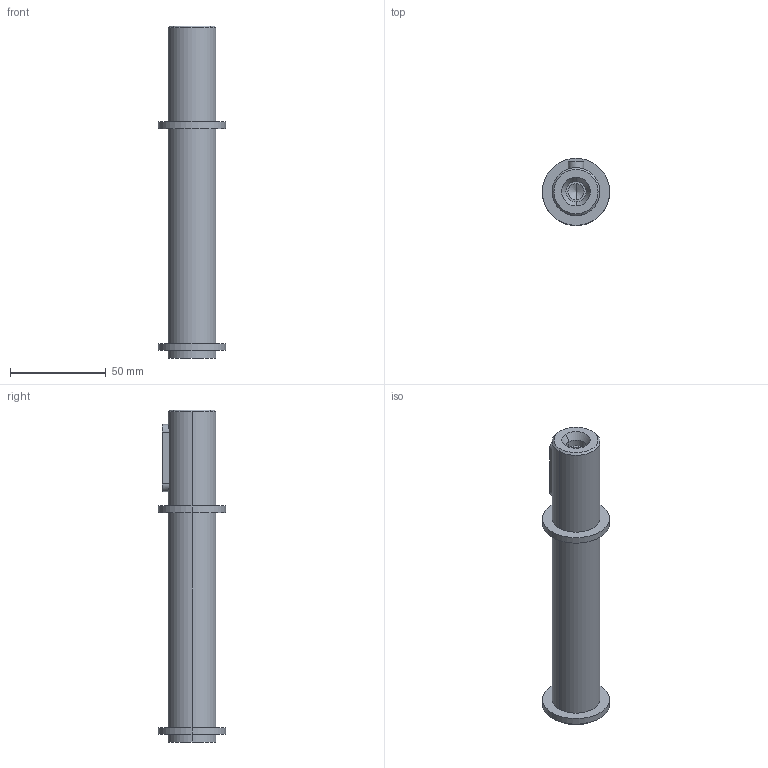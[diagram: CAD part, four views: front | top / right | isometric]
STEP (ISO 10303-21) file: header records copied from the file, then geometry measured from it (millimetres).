
FILE_DESCRIPTION(/* description */ (''),/* implementation_level */ '2;1');
FILE_NAME(/* name */ '7_ALBERO LENTO SEMPLICE NMRV-P063',/* time_stamp */ '2025-10-09T14:55:52+02:00',/* author */ (''),/* organization */ (''),/* preprocessor_version */ 'ST-DEVELOPER v19.2',/* originating_system */ 'Rhino 8.23',/* authorisation */ '');
FILE_SCHEMA (('CONFIG_CONTROL_DESIGN'));
Length unit declared in the file: millimetre
Products named in the file (2): Document; AL 063-25(1-1)-p
Bounding box: 35 x 35 x 173 mm (x, y, z)
Volume: 86949.5 mm3; surface area: 17713.5 mm2
Topology: 1 solids, 1 shells, 32 faces, 66 edges, 41 vertices
Faces by surface type: cylinder 16, plane 10, bspline 6
Entity records: 1110 total; most frequent: CARTESIAN_POINT 305, ORIENTED_EDGE 128, DIRECTION 102, EDGE_CURVE 64, AXIS2_PLACEMENT_3D 64, VERTEX_POINT 41, EDGE_LOOP 39, TRIMMED_CURVE 34
